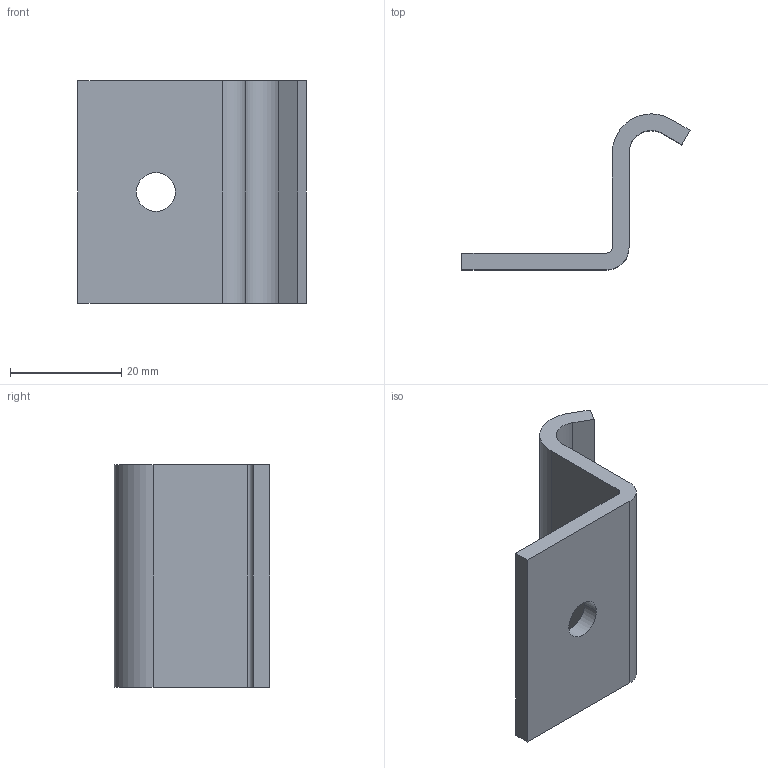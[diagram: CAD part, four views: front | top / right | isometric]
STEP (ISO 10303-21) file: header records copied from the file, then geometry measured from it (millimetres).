
FILE_DESCRIPTION(('Creo Elements/Direct Modeling STEP Export'),'2;1');
FILE_NAME('SLW 7.stp','2018-02-05T11:55:00',(''),(''),'Creo Elements/Direct Modeling STEP processor for AP214 (Solid Model)','Creo Elements/Direct Modeling 19.0G 27-Nov-2017 (C) Parametric Technology GmbH','');
FILE_SCHEMA(('AUTOMOTIVE_DESIGN { 1 0 10303 214 1 1 1 1 }'));
Length unit declared in the file: millimetre
Products named in the file (1): SLW_7
Bounding box: 40.96 x 28 x 40 mm (x, y, z)
Volume: 7378.1 mm3; surface area: 5599.4 mm2
Topology: 1 solids, 1 shells, 16 faces, 42 edges, 28 vertices
Faces by surface type: plane 10, cylinder 6
Entity records: 514 total; most frequent: CARTESIAN_POINT 85, DIRECTION 84, ORIENTED_EDGE 84, EDGE_CURVE 42, VECTOR 30, LINE 30, VERTEX_POINT 28, AXIS2_PLACEMENT_3D 27
